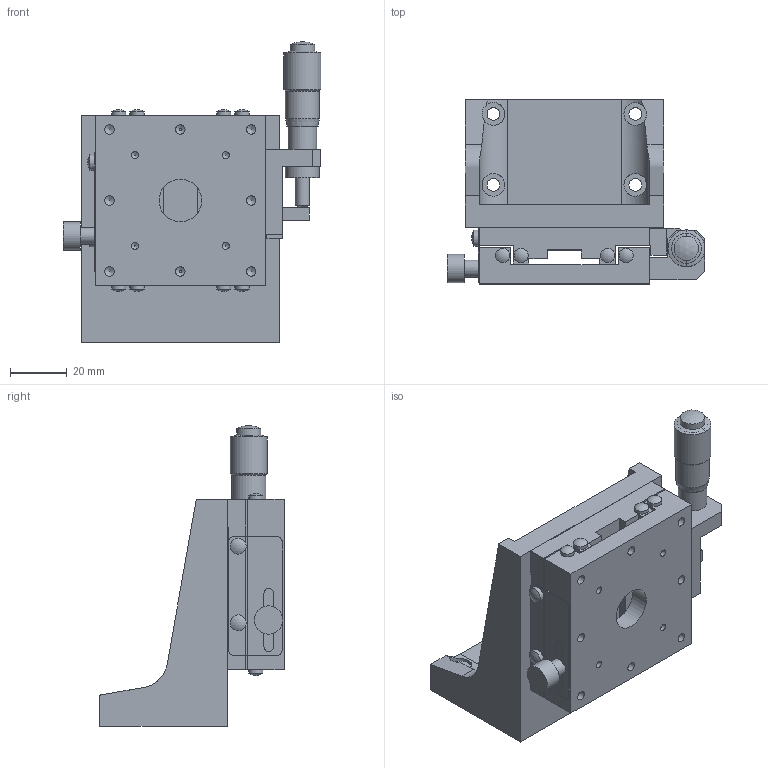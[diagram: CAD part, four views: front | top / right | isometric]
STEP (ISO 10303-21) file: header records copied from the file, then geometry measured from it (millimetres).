
FILE_DESCRIPTION( ( 'STEP AP214' ), '1' );
FILE_NAME( 'C:/Project/3D_B31-60CU-配布-070508.stp', '2007-05-08T10:43:18', ( ' ' ), ( ' ' ), 'XStep 1.0', ' ', ' ' );
FILE_SCHEMA( ( 'automotive_design' ) );
Length unit declared in the file: millimetre
Products named in the file (4): 1; 2; 3; 4
Bounding box: 90.8 x 65 x 106 mm (x, y, z)
Volume: 144919.3 mm3; surface area: 51771.8 mm2
Topology: 4 solids, 4 shells, 178 faces, 447 edges, 298 vertices
Faces by surface type: plane 97, cylinder 52, cone 17, sphere 12
Full cylindrical faces by diameter (mm): 2.5 x4, 3 x1, 3.3 x8, 4.5 x4, 5 x10, 5.6 x2, 6 x1, 8 x4, 8.6 x1, 10 x2, 10.5 x1, 12 x2, 13 x1, 15 x1
Entity records: 6631 total; most frequent: CARTESIAN_POINT 1096, DIRECTION 840, ORIENTED_EDGE 730, EDGE_CURVE 365, AXIS2_PLACEMENT_3D 299, EDGE_LOOP 280, VERTEX_POINT 277, LINE 242
